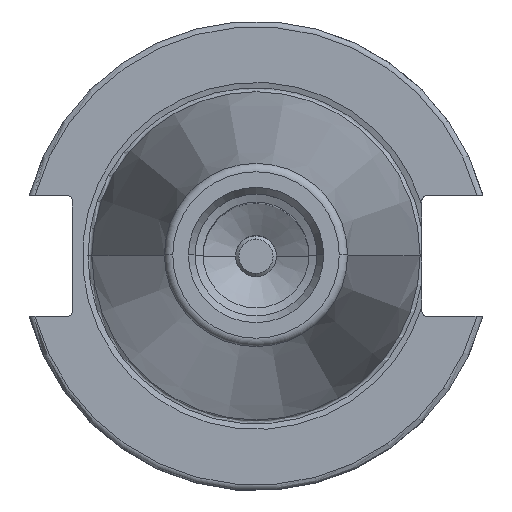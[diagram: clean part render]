
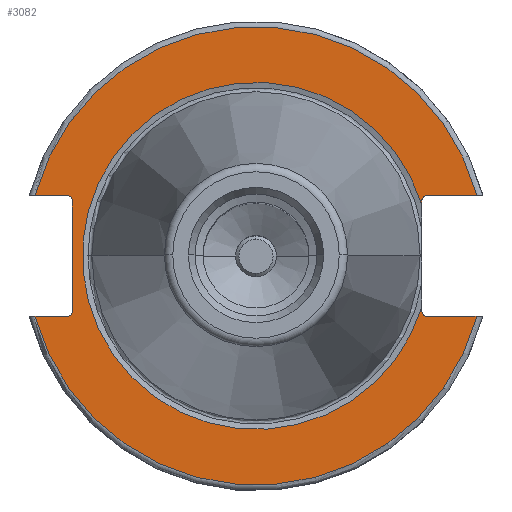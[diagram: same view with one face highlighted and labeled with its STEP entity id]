
A CAD part, top view. The second image highlights one B-rep face of the part: STEP entity #3082.
In plain terms, the highlighted planar face has unit normal (0, 0, 1).
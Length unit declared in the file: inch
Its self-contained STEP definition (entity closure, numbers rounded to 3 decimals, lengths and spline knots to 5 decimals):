
#41 = ORIENTED_EDGE ( 'NONE', *, *, #5773, .T. ) ;
#96 = CARTESIAN_POINT ( 'NONE',  ( 0.8825, 0.2925, -0.125 ) ) ;
#170 = VECTOR ( 'NONE', #3615, 39.37008 ) ;
#230 = LINE ( 'NONE', #4322, #6329 ) ;
#233 = DIRECTION ( 'NONE',  ( 1., 0., 0. ) ) ;
#263 = DIRECTION ( 'NONE',  ( 1., 0., 0. ) ) ;
#348 = DIRECTION ( 'NONE',  ( 1., 0., 0. ) ) ;
#361 = ORIENTED_EDGE ( 'NONE', *, *, #3829, .T. ) ;
#381 = DIRECTION ( 'NONE',  ( -1., 0., 0. ) ) ;
#398 = EDGE_CURVE ( 'NONE', #6042, #4486, #4237, .T. ) ;
#400 = EDGE_CURVE ( 'NONE', #7343, #4371, #230, .T. ) ;
#483 = CARTESIAN_POINT ( 'NONE',  ( 0., 0., -0.125 ) ) ;
#783 = CIRCLE ( 'NONE', #8327, 1.22 ) ;
#790 = DIRECTION ( 'NONE',  ( -1., 0., 0. ) ) ;
#821 = VERTEX_POINT ( 'NONE', #7195 ) ;
#896 = ORIENTED_EDGE ( 'NONE', *, *, #1445, .F. ) ;
#920 = PLANE ( 'NONE',  #2605 ) ;
#986 = DIRECTION ( 'NONE',  ( 0., 0., -1. ) ) ;
#1070 = LINE ( 'NONE', #4654, #2396 ) ;
#1073 = DIRECTION ( 'NONE',  ( 0., 0., -1. ) ) ;
#1170 = CARTESIAN_POINT ( 'NONE',  ( -1.0075, 0.3225, -0.125 ) ) ;
#1331 = EDGE_CURVE ( 'NONE', #3858, #5596, #1070, .T. ) ;
#1445 = EDGE_CURVE ( 'NONE', #1731, #3096, #2114, .T. ) ;
#1625 = CARTESIAN_POINT ( 'NONE',  ( -1.0075, -0.2925, -0.125 ) ) ;
#1731 = VERTEX_POINT ( 'NONE', #5822 ) ;
#1794 = LINE ( 'NONE', #6188, #6549 ) ;
#1894 = ORIENTED_EDGE ( 'NONE', *, *, #3461, .F. ) ;
#1948 = ORIENTED_EDGE ( 'NONE', *, *, #8030, .T. ) ;
#1949 = DIRECTION ( 'NONE',  ( 0., 1., 0. ) ) ;
#2114 = LINE ( 'NONE', #5442, #2848 ) ;
#2216 = DIRECTION ( 'NONE',  ( 0., 0., -1. ) ) ;
#2268 = ORIENTED_EDGE ( 'NONE', *, *, #5087, .T. ) ;
#2367 = ORIENTED_EDGE ( 'NONE', *, *, #5335, .T. ) ;
#2396 = VECTOR ( 'NONE', #5263, 39.37008 ) ;
#2605 = AXIS2_PLACEMENT_3D ( 'NONE', #3721, #6463, #233 ) ;
#2821 = LINE ( 'NONE', #5593, #170 ) ;
#2848 = VECTOR ( 'NONE', #5610, 39.37008 ) ;
#2938 = CARTESIAN_POINT ( 'NONE',  ( -1.0075, 0.2925, -0.125 ) ) ;
#3080 = EDGE_LOOP ( 'NONE', ( #896, #1894, #7572, #8056, #4066, #6011, #2268, #1948, #2367, #4149, #5497, #361, #8917, #41 ) ) ;
#3082 = ADVANCED_FACE ( 'NONE', ( #7134 ), #920, .T. ) ;
#3096 = VERTEX_POINT ( 'NONE', #5435 ) ;
#3235 = CIRCLE ( 'NONE', #3530, 0.03 ) ;
#3241 = CIRCLE ( 'NONE', #8448, 0.03 ) ;
#3426 = DIRECTION ( 'NONE',  ( -1., 0., 0. ) ) ;
#3461 = EDGE_CURVE ( 'NONE', #7343, #1731, #8123, .T. ) ;
#3530 = AXIS2_PLACEMENT_3D ( 'NONE', #8638, #3753, #263 ) ;
#3610 = VERTEX_POINT ( 'NONE', #5189 ) ;
#3615 = DIRECTION ( 'NONE',  ( 1., 0., 0. ) ) ;
#3652 = AXIS2_PLACEMENT_3D ( 'NONE', #6897, #7538, #5591 ) ;
#3721 = CARTESIAN_POINT ( 'NONE',  ( 0., 1.22, -0.125 ) ) ;
#3753 = DIRECTION ( 'NONE',  ( 0., 0., -1. ) ) ;
#3829 = EDGE_CURVE ( 'NONE', #4788, #5596, #8556, .T. ) ;
#3858 = VERTEX_POINT ( 'NONE', #6386 ) ;
#3874 = DIRECTION ( 'NONE',  ( 1., 0., 0. ) ) ;
#3994 = CIRCLE ( 'NONE', #5280, 0.03 ) ;
#4066 = ORIENTED_EDGE ( 'NONE', *, *, #398, .T. ) ;
#4149 = ORIENTED_EDGE ( 'NONE', *, *, #8693, .F. ) ;
#4237 = LINE ( 'NONE', #8840, #8224 ) ;
#4322 = CARTESIAN_POINT ( 'NONE',  ( 0., -0.3225, -0.125 ) ) ;
#4371 = VERTEX_POINT ( 'NONE', #8143 ) ;
#4427 = DIRECTION ( 'NONE',  ( 0., 0., -1. ) ) ;
#4481 = CARTESIAN_POINT ( 'NONE',  ( 0.9125, -0.2925, -0.125 ) ) ;
#4486 = VERTEX_POINT ( 'NONE', #6900 ) ;
#4654 = CARTESIAN_POINT ( 'NONE',  ( -0.9775, 1.22, -0.125 ) ) ;
#4788 = VERTEX_POINT ( 'NONE', #1170 ) ;
#5074 = CARTESIAN_POINT ( 'NONE',  ( 1.1766, 0.3225, -0.125 ) ) ;
#5087 = EDGE_CURVE ( 'NONE', #821, #8908, #1794, .T. ) ;
#5189 = CARTESIAN_POINT ( 'NONE',  ( 0.9125, 0.3225, -0.125 ) ) ;
#5212 = CARTESIAN_POINT ( 'NONE',  ( 0.8825, -0.2925, -0.125 ) ) ;
#5263 = DIRECTION ( 'NONE',  ( 0., 1., 0. ) ) ;
#5280 = AXIS2_PLACEMENT_3D ( 'NONE', #1625, #4427, #3874 ) ;
#5335 = EDGE_CURVE ( 'NONE', #3610, #7258, #2821, .T. ) ;
#5372 = EDGE_CURVE ( 'NONE', #4371, #6042, #3241, .T. ) ;
#5408 = VERTEX_POINT ( 'NONE', #8675 ) ;
#5430 = CARTESIAN_POINT ( 'NONE',  ( 1.1766, -0.3225, -0.125 ) ) ;
#5435 = CARTESIAN_POINT ( 'NONE',  ( -1.0075, -0.3225, -0.125 ) ) ;
#5436 = DIRECTION ( 'NONE',  ( -1., 0., 0. ) ) ;
#5442 = CARTESIAN_POINT ( 'NONE',  ( 0., -0.3225, -0.125 ) ) ;
#5497 = ORIENTED_EDGE ( 'NONE', *, *, #7837, .F. ) ;
#5591 = DIRECTION ( 'NONE',  ( -1., 0., 0. ) ) ;
#5593 = CARTESIAN_POINT ( 'NONE',  ( 0., 0.3225, -0.125 ) ) ;
#5596 = VERTEX_POINT ( 'NONE', #7617 ) ;
#5610 = DIRECTION ( 'NONE',  ( 1., 0., 0. ) ) ;
#5773 = EDGE_CURVE ( 'NONE', #3858, #3096, #3994, .T. ) ;
#5822 = CARTESIAN_POINT ( 'NONE',  ( -1.1766, -0.3225, -0.125 ) ) ;
#6011 = ORIENTED_EDGE ( 'NONE', *, *, #8465, .T. ) ;
#6042 = VERTEX_POINT ( 'NONE', #5212 ) ;
#6179 = CARTESIAN_POINT ( 'NONE',  ( 0., 0., -0.125 ) ) ;
#6188 = CARTESIAN_POINT ( 'NONE',  ( 0.8825, 1.22, -0.125 ) ) ;
#6329 = VECTOR ( 'NONE', #790, 39.37008 ) ;
#6386 = CARTESIAN_POINT ( 'NONE',  ( -0.9775, -0.2925, -0.125 ) ) ;
#6463 = DIRECTION ( 'NONE',  ( 0., 0., 1. ) ) ;
#6549 = VECTOR ( 'NONE', #7326, 39.37008 ) ;
#6897 = CARTESIAN_POINT ( 'NONE',  ( 0., 0., -0.125 ) ) ;
#6900 = CARTESIAN_POINT ( 'NONE',  ( 0.8825, -0.27356, -0.125 ) ) ;
#6974 = VECTOR ( 'NONE', #5436, 39.37008 ) ;
#7089 = AXIS2_PLACEMENT_3D ( 'NONE', #2938, #2216, #7741 ) ;
#7134 = FACE_OUTER_BOUND ( 'NONE', #3080, .T. ) ;
#7195 = CARTESIAN_POINT ( 'NONE',  ( 0.8825, 0.27356, -0.125 ) ) ;
#7258 = VERTEX_POINT ( 'NONE', #5074 ) ;
#7326 = DIRECTION ( 'NONE',  ( 0., 1., 0. ) ) ;
#7343 = VERTEX_POINT ( 'NONE', #5430 ) ;
#7538 = DIRECTION ( 'NONE',  ( 0., 0., -1. ) ) ;
#7550 = CARTESIAN_POINT ( 'NONE',  ( 0., 0.3225, -0.125 ) ) ;
#7572 = ORIENTED_EDGE ( 'NONE', *, *, #400, .T. ) ;
#7617 = CARTESIAN_POINT ( 'NONE',  ( -0.9775, 0.2925, -0.125 ) ) ;
#7741 = DIRECTION ( 'NONE',  ( 1., 0., 0. ) ) ;
#7837 = EDGE_CURVE ( 'NONE', #4788, #5408, #8921, .T. ) ;
#8018 = CIRCLE ( 'NONE', #8175, 0.92393 ) ;
#8030 = EDGE_CURVE ( 'NONE', #8908, #3610, #3235, .T. ) ;
#8056 = ORIENTED_EDGE ( 'NONE', *, *, #5372, .T. ) ;
#8123 = CIRCLE ( 'NONE', #3652, 1.22 ) ;
#8143 = CARTESIAN_POINT ( 'NONE',  ( 0.9125, -0.3225, -0.125 ) ) ;
#8175 = AXIS2_PLACEMENT_3D ( 'NONE', #6179, #8944, #3426 ) ;
#8224 = VECTOR ( 'NONE', #1949, 39.37008 ) ;
#8327 = AXIS2_PLACEMENT_3D ( 'NONE', #483, #1073, #381 ) ;
#8448 = AXIS2_PLACEMENT_3D ( 'NONE', #4481, #986, #348 ) ;
#8465 = EDGE_CURVE ( 'NONE', #4486, #821, #8018, .T. ) ;
#8556 = CIRCLE ( 'NONE', #7089, 0.03 ) ;
#8638 = CARTESIAN_POINT ( 'NONE',  ( 0.9125, 0.2925, -0.125 ) ) ;
#8675 = CARTESIAN_POINT ( 'NONE',  ( -1.1766, 0.3225, -0.125 ) ) ;
#8693 = EDGE_CURVE ( 'NONE', #5408, #7258, #783, .T. ) ;
#8840 = CARTESIAN_POINT ( 'NONE',  ( 0.8825, 1.22, -0.125 ) ) ;
#8908 = VERTEX_POINT ( 'NONE', #96 ) ;
#8917 = ORIENTED_EDGE ( 'NONE', *, *, #1331, .F. ) ;
#8921 = LINE ( 'NONE', #7550, #6974 ) ;
#8944 = DIRECTION ( 'NONE',  ( 0., 0., -1. ) ) ;
